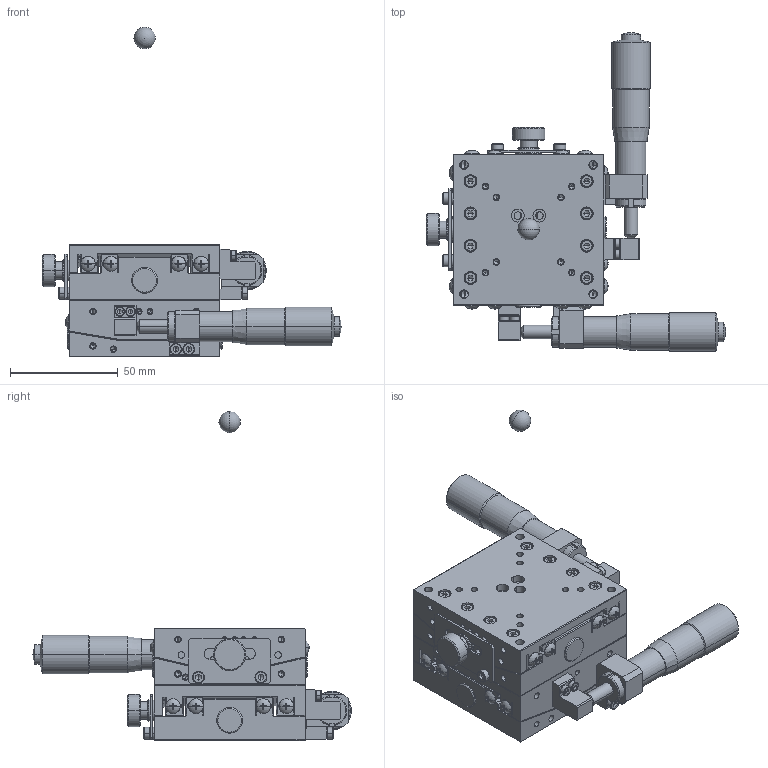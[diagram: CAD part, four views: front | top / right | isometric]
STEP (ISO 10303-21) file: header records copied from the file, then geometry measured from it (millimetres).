
FILE_DESCRIPTION (( 'STEP AP214' ), '1' );
FILE_NAME ('ST07A-S1L.STEP', '2007-01-19T01:42:35', ( ' ' ), ( ' ' ), 'SwSTEP 2.0', 'SolidWorks 2006052', '' );
FILE_SCHEMA (( 'AUTOMOTIVE_DESIGN' ));
Length unit declared in the file: millimetre
Products named in the file (9): MICROMETERHEAD(MHN4-25T)spindle-8; ST07A-S1B(PL); 002610-1011(3D)-2; 002610-1020(3D)-2; MICROMETERHEAD(MHN4-25T)spindle-9; ST07A-S1M(PL)-1; ST07A-S1L-Part-1; 002600-1011(3D)-3; ST07A-S1L
Assembly tree (8 placements, depth 3):
  ST07A-S1L
    ST07A-S1M(PL)-1
      MICROMETERHEAD(MHN4-25T)spindle-9
      002600-1011(3D)-3
    ST07A-S1B(PL)
      002610-1020(3D)-2
      MICROMETERHEAD(MHN4-25T)spindle-8
      002610-1011(3D)-2
    ST07A-S1L-Part-1
Bounding box: 139 x 148 x 153 mm (x, y, z)
Volume: 255152 mm3; surface area: 119521.8 mm2
Topology: 6 solids, 77 shells, 3645 faces, 8452 edges, 4927 vertices
Faces by surface type: plane 1504, cylinder 1177, cone 906, sphere 42, torus 16
Entity records: 108418 total; most frequent: CARTESIAN_POINT 25447, DIRECTION 18165, ORIENTED_EDGE 16422, EDGE_CURVE 8211, AXIS2_PLACEMENT_3D 7000, VERTEX_POINT 4924, VECTOR 4165, LINE 4165
